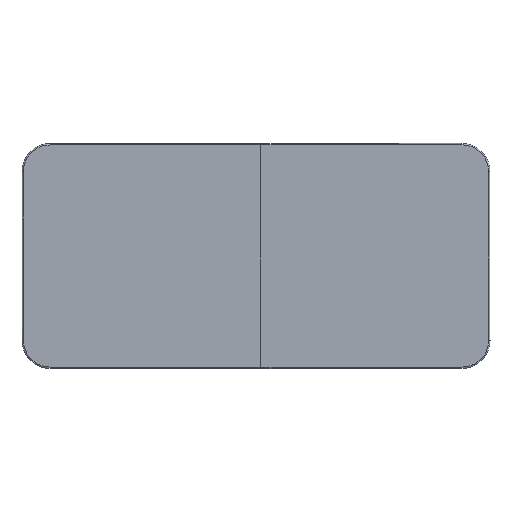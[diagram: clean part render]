
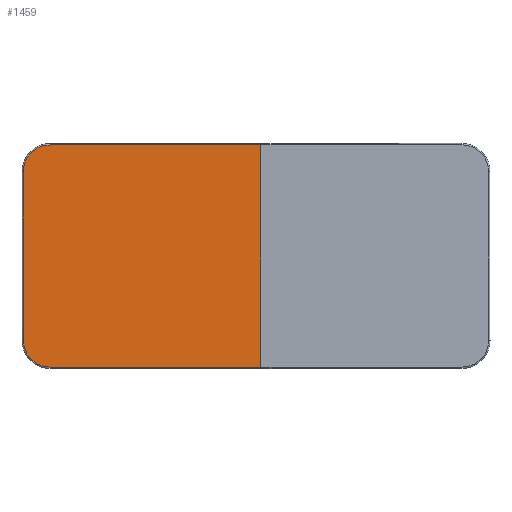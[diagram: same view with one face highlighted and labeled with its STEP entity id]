
A CAD part, top view. The second image highlights one B-rep face of the part: STEP entity #1459.
In plain terms, the highlighted planar face has unit normal (0, 0, 1).
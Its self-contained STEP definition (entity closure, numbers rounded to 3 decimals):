
#22 = DIRECTION ( 'NONE',  ( 1., 0., 0. ) ) ;
#156 = ORIENTED_EDGE ( 'NONE', *, *, #4023, .T. ) ;
#234 = VERTEX_POINT ( 'NONE', #563 ) ;
#258 = CIRCLE ( 'NONE', #2855, 19. ) ;
#326 = AXIS2_PLACEMENT_3D ( 'NONE', #3878, #1547, #22 ) ;
#449 = CARTESIAN_POINT ( 'NONE',  ( 1., -138.1, 6.2 ) ) ;
#563 = CARTESIAN_POINT ( 'NONE',  ( 169.974, -157.1, 6.2 ) ) ;
#572 = VERTEX_POINT ( 'NONE', #1998 ) ;
#647 = DIRECTION ( 'NONE',  ( 0., 0., 1. ) ) ;
#688 = CARTESIAN_POINT ( 'NONE',  ( 0.996, -18.185, 6.2 ) ) ;
#724 = VERTEX_POINT ( 'NONE', #688 ) ;
#769 = LINE ( 'NONE', #2381, #1264 ) ;
#840 = VECTOR ( 'NONE', #3047, 1000. ) ;
#1133 = FACE_OUTER_BOUND ( 'NONE', #1259, .T. ) ;
#1154 = DIRECTION ( 'NONE',  ( 0., 1., 0. ) ) ;
#1180 = EDGE_CURVE ( 'NONE', #572, #2880, #769, .T. ) ;
#1209 = LINE ( 'NONE', #4171, #840 ) ;
#1259 = EDGE_LOOP ( 'NONE', ( #4104, #2976, #4599, #156, #3315, #4221 ) ) ;
#1264 = VECTOR ( 'NONE', #4684, 1000. ) ;
#1266 = VERTEX_POINT ( 'NONE', #449 ) ;
#1459 = ADVANCED_FACE ( 'NONE', ( #1133 ), #4417, .T. ) ;
#1547 = DIRECTION ( 'NONE',  ( 0., 0., 1. ) ) ;
#1807 = LINE ( 'NONE', #3727, #4223 ) ;
#1821 = VECTOR ( 'NONE', #1154, 1000. ) ;
#1946 = AXIS2_PLACEMENT_3D ( 'NONE', #2531, #4394, #2081 ) ;
#1998 = CARTESIAN_POINT ( 'NONE',  ( 169.974, 0.99, 6.2 ) ) ;
#2081 = DIRECTION ( 'NONE',  ( 1., 0., 0. ) ) ;
#2381 = CARTESIAN_POINT ( 'NONE',  ( 19.995, 0.98, 6.2 ) ) ;
#2531 = CARTESIAN_POINT ( 'NONE',  ( 19.995, -18.02, 6.2 ) ) ;
#2855 = AXIS2_PLACEMENT_3D ( 'NONE', #2986, #647, #3370 ) ;
#2880 = VERTEX_POINT ( 'NONE', #3190 ) ;
#2976 = ORIENTED_EDGE ( 'NONE', *, *, #4149, .T. ) ;
#2986 = CARTESIAN_POINT ( 'NONE',  ( 19.995, -18.02, 6.2 ) ) ;
#3047 = DIRECTION ( 'NONE',  ( 0., -1., 0. ) ) ;
#3117 = LINE ( 'NONE', #4220, #1821 ) ;
#3190 = CARTESIAN_POINT ( 'NONE',  ( 19.995, 0.98, 6.2 ) ) ;
#3315 = ORIENTED_EDGE ( 'NONE', *, *, #4663, .T. ) ;
#3320 = DIRECTION ( 'NONE',  ( 1., 0., 0. ) ) ;
#3370 = DIRECTION ( 'NONE',  ( 1., 0., 0. ) ) ;
#3727 = CARTESIAN_POINT ( 'NONE',  ( 313.001, -157.1, 6.2 ) ) ;
#3785 = CARTESIAN_POINT ( 'NONE',  ( 20., -157.1, 6.2 ) ) ;
#3842 = CIRCLE ( 'NONE', #326, 19. ) ;
#3861 = EDGE_CURVE ( 'NONE', #1266, #4603, #3842, .T. ) ;
#3878 = CARTESIAN_POINT ( 'NONE',  ( 20., -138.1, 6.2 ) ) ;
#4023 = EDGE_CURVE ( 'NONE', #2880, #724, #258, .T. ) ;
#4104 = ORIENTED_EDGE ( 'NONE', *, *, #4916, .T. ) ;
#4149 = EDGE_CURVE ( 'NONE', #234, #572, #3117, .T. ) ;
#4171 = CARTESIAN_POINT ( 'NONE',  ( 1., -138.1, 6.2 ) ) ;
#4220 = CARTESIAN_POINT ( 'NONE',  ( 169.974, -18.02, 6.2 ) ) ;
#4221 = ORIENTED_EDGE ( 'NONE', *, *, #3861, .T. ) ;
#4223 = VECTOR ( 'NONE', #3320, 1000. ) ;
#4394 = DIRECTION ( 'NONE',  ( 0., 0., 1. ) ) ;
#4417 = PLANE ( 'NONE',  #1946 ) ;
#4599 = ORIENTED_EDGE ( 'NONE', *, *, #1180, .T. ) ;
#4603 = VERTEX_POINT ( 'NONE', #3785 ) ;
#4663 = EDGE_CURVE ( 'NONE', #724, #1266, #1209, .T. ) ;
#4684 = DIRECTION ( 'NONE',  ( -1., 0., 0. ) ) ;
#4916 = EDGE_CURVE ( 'NONE', #4603, #234, #1807, .T. ) ;
